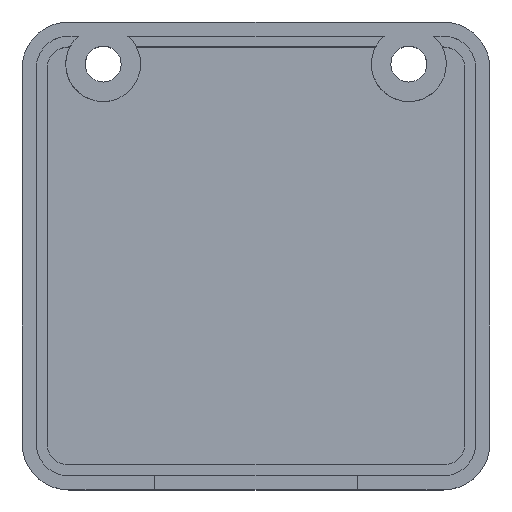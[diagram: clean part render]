
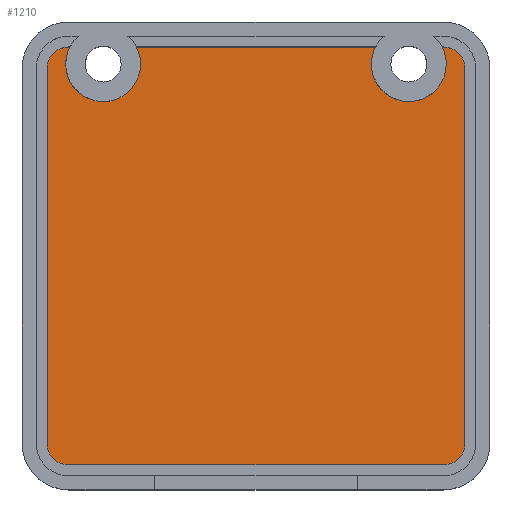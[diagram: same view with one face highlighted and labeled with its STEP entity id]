
A CAD part, top view. The second image highlights one B-rep face of the part: STEP entity #1210.
In plain terms, the highlighted planar face has unit normal (0, 0, 1).
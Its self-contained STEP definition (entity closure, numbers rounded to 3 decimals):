
#729 = VERTEX_POINT('',#730);
#730 = CARTESIAN_POINT('',(22.667,28.4,1.6));
#764 = VERTEX_POINT('',#765);
#765 = CARTESIAN_POINT('',(26.933,28.4,1.6));
#771 = EDGE_CURVE('',#764,#772,#774,.T.);
#772 = VERTEX_POINT('',#773);
#773 = CARTESIAN_POINT('',(27.2,27.3,1.6));
#774 = CIRCLE('',#775,2.4);
#775 = AXIS2_PLACEMENT_3D('',#776,#777,#778);
#776 = CARTESIAN_POINT('',(24.8,27.3,1.6));
#777 = DIRECTION('',(0.,0.,-1.));
#778 = DIRECTION('',(1.,0.,0.));
#780 = EDGE_CURVE('',#772,#729,#781,.T.);
#781 = CIRCLE('',#782,2.4);
#782 = AXIS2_PLACEMENT_3D('',#783,#784,#785);
#783 = CARTESIAN_POINT('',(24.8,27.3,1.6));
#784 = DIRECTION('',(0.,0.,-1.));
#785 = DIRECTION('',(1.,0.,0.));
#830 = VERTEX_POINT('',#831);
#831 = CARTESIAN_POINT('',(7.333,28.4,1.6));
#837 = EDGE_CURVE('',#830,#838,#840,.T.);
#838 = VERTEX_POINT('',#839);
#839 = CARTESIAN_POINT('',(7.6,27.3,1.6));
#840 = CIRCLE('',#841,2.4);
#841 = AXIS2_PLACEMENT_3D('',#842,#843,#844);
#842 = CARTESIAN_POINT('',(5.2,27.3,1.6));
#843 = DIRECTION('',(0.,0.,-1.));
#844 = DIRECTION('',(1.,0.,0.));
#846 = EDGE_CURVE('',#838,#847,#849,.T.);
#847 = VERTEX_POINT('',#848);
#848 = CARTESIAN_POINT('',(3.067,28.4,1.6));
#849 = CIRCLE('',#850,2.4);
#850 = AXIS2_PLACEMENT_3D('',#851,#852,#853);
#851 = CARTESIAN_POINT('',(5.2,27.3,1.6));
#852 = DIRECTION('',(0.,0.,-1.));
#853 = DIRECTION('',(1.,0.,0.));
#1156 = EDGE_CURVE('',#830,#729,#1157,.T.);
#1157 = LINE('',#1158,#1159);
#1158 = CARTESIAN_POINT('',(3.,28.4,1.6));
#1159 = VECTOR('',#1160,1.);
#1160 = DIRECTION('',(1.,0.,0.));
#1190 = EDGE_CURVE('',#764,#1191,#1193,.T.);
#1191 = VERTEX_POINT('',#1192);
#1192 = CARTESIAN_POINT('',(27.,28.4,1.6));
#1193 = LINE('',#1194,#1195);
#1194 = CARTESIAN_POINT('',(3.,28.4,1.6));
#1195 = VECTOR('',#1196,1.);
#1196 = DIRECTION('',(1.,0.,0.));
#1210 = ADVANCED_FACE('',(#1211),#1285,.F.);
#1211 = FACE_BOUND('',#1212,.F.);
#1212 = EDGE_LOOP('',(#1213,#1224,#1232,#1241,#1247,#1248,#1249,#1250,
    #1251,#1252,#1253,#1262,#1270,#1279));
#1213 = ORIENTED_EDGE('',*,*,#1214,.F.);
#1214 = EDGE_CURVE('',#1215,#1217,#1219,.T.);
#1215 = VERTEX_POINT('',#1216);
#1216 = CARTESIAN_POINT('',(1.6,3.,1.6));
#1217 = VERTEX_POINT('',#1218);
#1218 = CARTESIAN_POINT('',(3.,1.6,1.6));
#1219 = CIRCLE('',#1220,1.4);
#1220 = AXIS2_PLACEMENT_3D('',#1221,#1222,#1223);
#1221 = CARTESIAN_POINT('',(3.,3.,1.6));
#1222 = DIRECTION('',(0.,0.,1.));
#1223 = DIRECTION('',(1.,0.,0.));
#1224 = ORIENTED_EDGE('',*,*,#1225,.T.);
#1225 = EDGE_CURVE('',#1215,#1226,#1228,.T.);
#1226 = VERTEX_POINT('',#1227);
#1227 = CARTESIAN_POINT('',(1.6,27.,1.6));
#1228 = LINE('',#1229,#1230);
#1229 = CARTESIAN_POINT('',(1.6,3.,1.6));
#1230 = VECTOR('',#1231,1.);
#1231 = DIRECTION('',(0.,1.,0.));
#1232 = ORIENTED_EDGE('',*,*,#1233,.F.);
#1233 = EDGE_CURVE('',#1234,#1226,#1236,.T.);
#1234 = VERTEX_POINT('',#1235);
#1235 = CARTESIAN_POINT('',(3.,28.4,1.6));
#1236 = CIRCLE('',#1237,1.4);
#1237 = AXIS2_PLACEMENT_3D('',#1238,#1239,#1240);
#1238 = CARTESIAN_POINT('',(3.,27.,1.6));
#1239 = DIRECTION('',(0.,0.,1.));
#1240 = DIRECTION('',(1.,0.,0.));
#1241 = ORIENTED_EDGE('',*,*,#1242,.T.);
#1242 = EDGE_CURVE('',#1234,#847,#1243,.T.);
#1243 = LINE('',#1244,#1245);
#1244 = CARTESIAN_POINT('',(3.,28.4,1.6));
#1245 = VECTOR('',#1246,1.);
#1246 = DIRECTION('',(1.,0.,0.));
#1247 = ORIENTED_EDGE('',*,*,#846,.F.);
#1248 = ORIENTED_EDGE('',*,*,#837,.F.);
#1249 = ORIENTED_EDGE('',*,*,#1156,.T.);
#1250 = ORIENTED_EDGE('',*,*,#780,.F.);
#1251 = ORIENTED_EDGE('',*,*,#771,.F.);
#1252 = ORIENTED_EDGE('',*,*,#1190,.T.);
#1253 = ORIENTED_EDGE('',*,*,#1254,.F.);
#1254 = EDGE_CURVE('',#1255,#1191,#1257,.T.);
#1255 = VERTEX_POINT('',#1256);
#1256 = CARTESIAN_POINT('',(28.4,27.,1.6));
#1257 = CIRCLE('',#1258,1.4);
#1258 = AXIS2_PLACEMENT_3D('',#1259,#1260,#1261);
#1259 = CARTESIAN_POINT('',(27.,27.,1.6));
#1260 = DIRECTION('',(0.,0.,1.));
#1261 = DIRECTION('',(1.,0.,0.));
#1262 = ORIENTED_EDGE('',*,*,#1263,.F.);
#1263 = EDGE_CURVE('',#1264,#1255,#1266,.T.);
#1264 = VERTEX_POINT('',#1265);
#1265 = CARTESIAN_POINT('',(28.4,3.,1.6));
#1266 = LINE('',#1267,#1268);
#1267 = CARTESIAN_POINT('',(28.4,3.,1.6));
#1268 = VECTOR('',#1269,1.);
#1269 = DIRECTION('',(0.,1.,0.));
#1270 = ORIENTED_EDGE('',*,*,#1271,.F.);
#1271 = EDGE_CURVE('',#1272,#1264,#1274,.T.);
#1272 = VERTEX_POINT('',#1273);
#1273 = CARTESIAN_POINT('',(27.,1.6,1.6));
#1274 = CIRCLE('',#1275,1.4);
#1275 = AXIS2_PLACEMENT_3D('',#1276,#1277,#1278);
#1276 = CARTESIAN_POINT('',(27.,3.,1.6));
#1277 = DIRECTION('',(0.,0.,1.));
#1278 = DIRECTION('',(1.,0.,0.));
#1279 = ORIENTED_EDGE('',*,*,#1280,.F.);
#1280 = EDGE_CURVE('',#1217,#1272,#1281,.T.);
#1281 = LINE('',#1282,#1283);
#1282 = CARTESIAN_POINT('',(3.,1.6,1.6));
#1283 = VECTOR('',#1284,1.);
#1284 = DIRECTION('',(1.,0.,0.));
#1285 = PLANE('',#1286);
#1286 = AXIS2_PLACEMENT_3D('',#1287,#1288,#1289);
#1287 = CARTESIAN_POINT('',(15.,15.,1.6));
#1288 = DIRECTION('',(-0.,-0.,-1.));
#1289 = DIRECTION('',(-1.,0.,0.));
